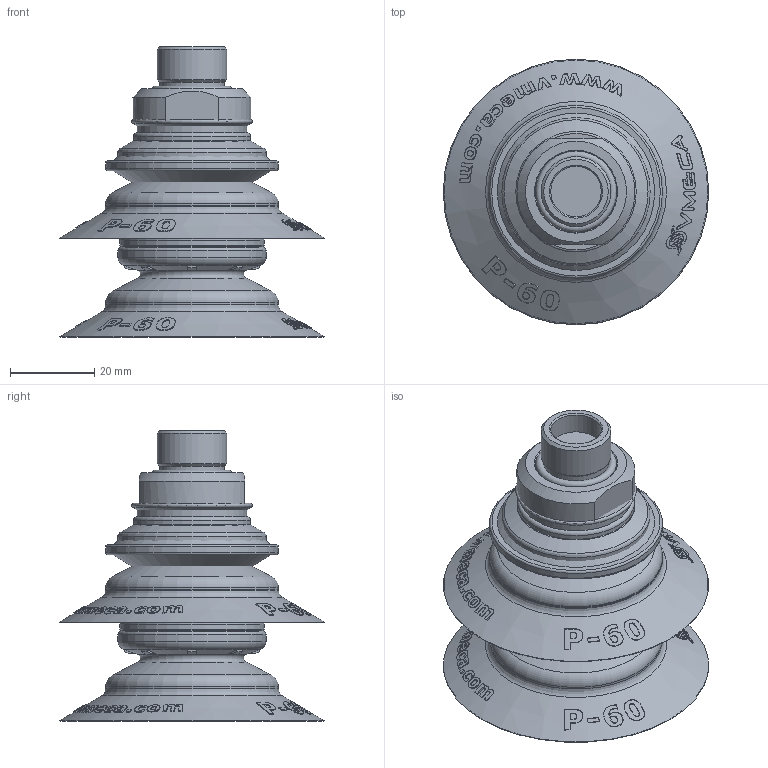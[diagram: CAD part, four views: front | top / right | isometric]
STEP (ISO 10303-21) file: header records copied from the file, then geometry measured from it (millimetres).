
FILE_DESCRIPTION( ( 'Unknown' ), '1' );
FILE_NAME( 'C:/Documents and Settings/Administrator/官帕 拳搁/Magic Cup (Dim)/B2.5/P TYPE/B2.5-40/B2.5-40-P60-N6-D-F2-38M.stp', 'Unknown', ( 'Unknown' ), ( 'Unknown' ), 'XStep 1.0', 'Unknown', ' ' );
FILE_SCHEMA( ( 'automotive_design' ) );
Length unit declared in the file: millimetre
Products named in the file (8): Assem1; Assem2; Assem3; B2.5-40; 40-38M(DIM); 38M-Oring(DIM); 赤40 STOPPER ; P60
Bounding box: 63 x 63 x 68.99 mm (x, y, z)
Volume: 89542.1 mm3; surface area: 78383 mm2
Topology: 15 solids, 15 shells, 2508 faces, 6699 edges, 4359 vertices
Faces by surface type: plane 840, bspline 654, cylinder 432, cone 330, torus 252
Full cylindrical faces by diameter (mm): 12 x3, 15.3 x3, 16.6 x3, 19.3 x3, 20.5 x3, 21 x6, 21.5 x6, 22 x3, 24 x6, 24.831 x3, 26 x3, 27.8 x3, 27.821 x3, 34.2 x3, 35 x3, 35.2 x3, 41 x9
Entity records: 35140 total; most frequent: CARTESIAN_POINT 16371, ORIENTED_EDGE 4258, DIRECTION 2584, EDGE_CURVE 2129, VERTEX_POINT 1442, B_SPLINE_CURVE_WITH_KNOTS 1211, AXIS2_PLACEMENT_3D 1040, EDGE_LOOP 987
